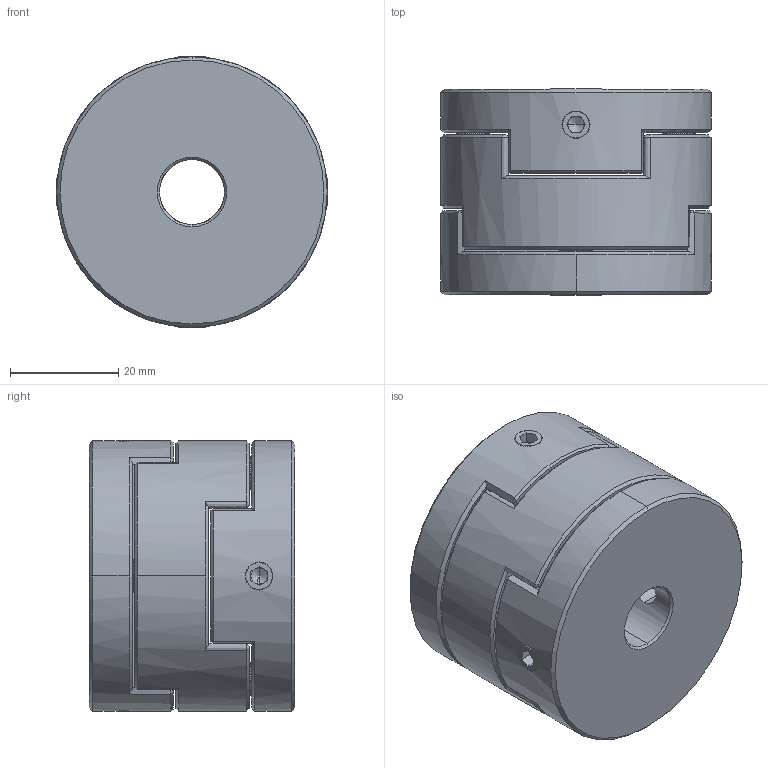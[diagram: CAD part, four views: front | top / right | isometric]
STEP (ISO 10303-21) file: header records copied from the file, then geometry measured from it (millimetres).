
FILE_DESCRIPTION (( 'STEP AP203' ), '1' );
FILE_NAME ('LZ-D-D50L38-12-12.STEP', '2021-10-30T05:39:59', ( '' ), ( '' ), 'SwSTEP 2.0', 'SolidWorks 2018', '' );
FILE_SCHEMA (( 'CONFIG_CONTROL_DESIGN' ));
Length unit declared in the file: millimetre
Products named in the file (1): LZ-D-D50L38-12-12
Bounding box: 50 x 38 x 50 mm (x, y, z)
Volume: 65333.8 mm3; surface area: 18614.3 mm2
Topology: 1 solids, 1 shells, 222 faces, 546 edges, 326 vertices
Faces by surface type: plane 88, bspline 54, cone 54, cylinder 26
Entity records: 7538 total; most frequent: CARTESIAN_POINT 2776, ORIENTED_EDGE 1076, DIRECTION 798, EDGE_CURVE 538, VERTEX_POINT 326, AXIS2_PLACEMENT_3D 289, EDGE_LOOP 248, ADVANCED_FACE 222
